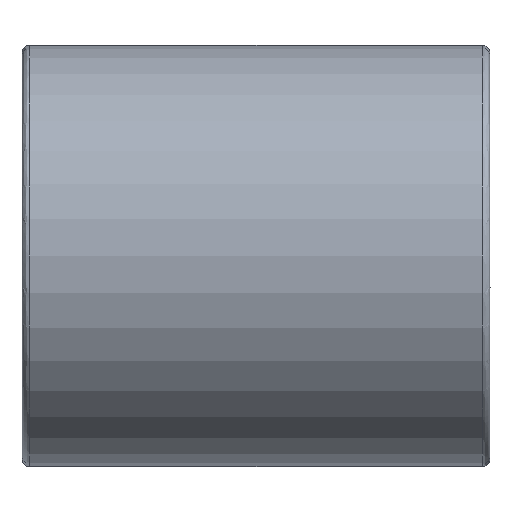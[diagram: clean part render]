
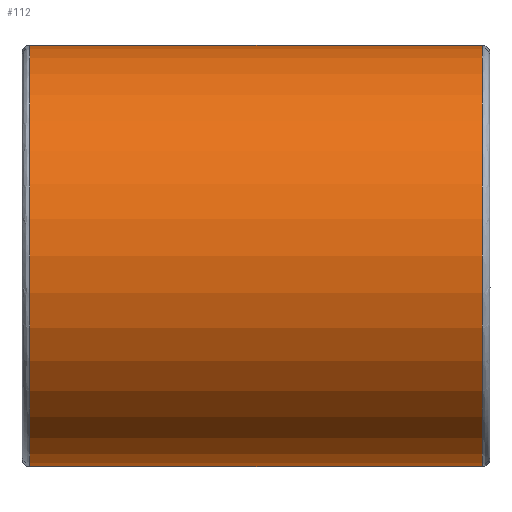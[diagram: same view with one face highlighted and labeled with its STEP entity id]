
A CAD part, left-side view. The second image highlights one B-rep face of the part: STEP entity #112.
In plain terms, the highlighted face is a revolution surface.
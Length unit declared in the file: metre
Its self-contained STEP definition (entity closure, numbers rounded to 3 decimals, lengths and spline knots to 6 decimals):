
#112 = ADVANCED_FACE( '', ( #210 ), #211, .F. );
#210 = FACE_OUTER_BOUND( '', #942, .T. );
#211 = SURFACE_OF_REVOLUTION( '', #943, #944 );
#942 = EDGE_LOOP( '', ( #1425, #1426, #1427, #1428 ) );
#943 = B_SPLINE_CURVE_WITH_KNOTS( '', 1, ( #1429, #1430 ), .UNSPECIFIED., .F., .F., ( 2, 2 ), ( -10000., 10000. ), .UNSPECIFIED. );
#944 = AXIS1_PLACEMENT( '', #1431, #1432 );
#1425 = ORIENTED_EDGE( '', *, *, #1733, .F. );
#1426 = ORIENTED_EDGE( '', *, *, #1734, .F. );
#1427 = ORIENTED_EDGE( '', *, *, #1735, .F. );
#1428 = ORIENTED_EDGE( '', *, *, #1736, .F. );
#1429 = CARTESIAN_POINT( '', ( 0., 10000.059, -0.027 ) );
#1430 = CARTESIAN_POINT( '', ( 0., -9999.941, -0.027 ) );
#1431 = CARTESIAN_POINT( '', ( 0., 0.06, 0. ) );
#1432 = DIRECTION( '', ( 0., 1., 0. ) );
#1733 = EDGE_CURVE( '', #1769, #1767, #1986, .F. );
#1734 = EDGE_CURVE( '', #1987, #1769, #1988, .F. );
#1735 = EDGE_CURVE( '', #1989, #1987, #1990, .T. );
#1736 = EDGE_CURVE( '', #1767, #1989, #1991, .T. );
#1767 = VERTEX_POINT( '', #2028 );
#1769 = VERTEX_POINT( '', #2040 );
#1986 = CIRCLE( '', #4824, 0.027 );
#1987 = VERTEX_POINT( '', #4825 );
#1988 = LINE( '', #4826, #4827 );
#1989 = VERTEX_POINT( '', #4828 );
#1990 = CIRCLE( '', #4829, 0.027 );
#1991 = LINE( '', #4830, #4831 );
#2028 = CARTESIAN_POINT( '', ( 0., 0.059, 0.027 ) );
#2040 = CARTESIAN_POINT( '', ( 0., 0.059, -0.027 ) );
#4824 = AXIS2_PLACEMENT_3D( '', #5002, #5003, #5004 );
#4825 = CARTESIAN_POINT( '', ( 0., 0.001, -0.027 ) );
#4826 = CARTESIAN_POINT( '', ( 0., 0.059, -0.027 ) );
#4827 = VECTOR( '', #5005, 1. );
#4828 = CARTESIAN_POINT( '', ( 0., 0.001, 0.027 ) );
#4829 = AXIS2_PLACEMENT_3D( '', #5006, #5007, #5008 );
#4830 = CARTESIAN_POINT( '', ( 0., 0.059, 0.027 ) );
#4831 = VECTOR( '', #5009, 1. );
#5002 = CARTESIAN_POINT( '', ( 0., 0.059, 0. ) );
#5003 = DIRECTION( '', ( 0., -1., 0. ) );
#5004 = DIRECTION( '', ( 0., 0., -1. ) );
#5005 = DIRECTION( '', ( 0., -1., 0. ) );
#5006 = CARTESIAN_POINT( '', ( 0., 0.001, 0. ) );
#5007 = DIRECTION( '', ( 0., -1., 0. ) );
#5008 = DIRECTION( '', ( 0., 0., -1. ) );
#5009 = DIRECTION( '', ( 0., -1., 0. ) );
